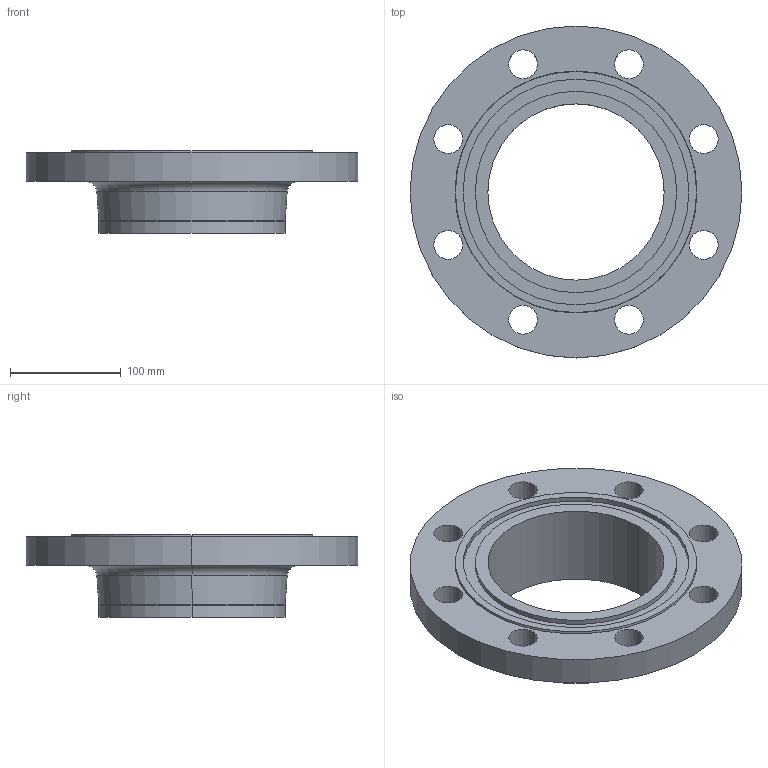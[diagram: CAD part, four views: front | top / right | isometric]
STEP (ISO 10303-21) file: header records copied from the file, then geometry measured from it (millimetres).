
FILE_DESCRIPTION (( 'STEP AP214' ), '1' );
FILE_NAME ('PN40 DN150 Type 11 - Type D Face.STEP', '2019-01-05T00:11:04', ( '' ), ( '' ), 'SwSTEP 2.0', 'SolidWorks 2019', '' );
FILE_SCHEMA (( 'AUTOMOTIVE_DESIGN' ));
Length unit declared in the file: millimetre
Products named in the file (1): PN40 DN150 Type 11 - Type D Face
Bounding box: 300 x 300 x 75 mm (x, y, z)
Volume: 1357156.8 mm3; surface area: 200535.7 mm2
Topology: 1 solids, 1 shells, 40 faces, 96 edges, 62 vertices
Faces by surface type: cylinder 26, plane 6, torus 4, cone 4
Entity records: 1268 total; most frequent: DIRECTION 244, CARTESIAN_POINT 199, ORIENTED_EDGE 192, AXIS2_PLACEMENT_3D 107, EDGE_CURVE 96, CIRCLE 66, EDGE_LOOP 62, VERTEX_POINT 62
